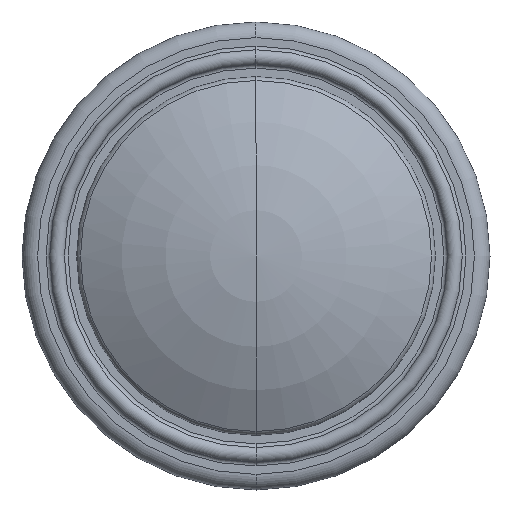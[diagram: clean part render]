
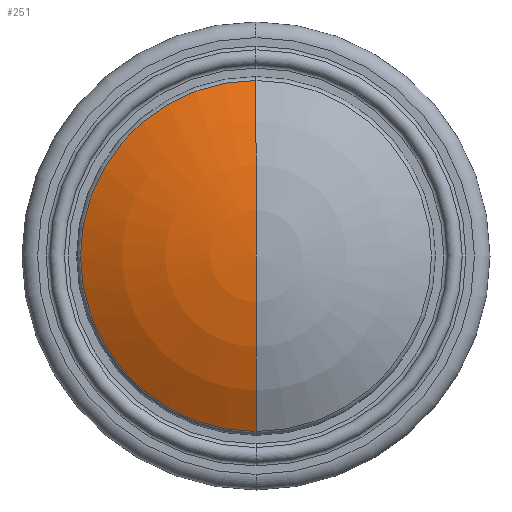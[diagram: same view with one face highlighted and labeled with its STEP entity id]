
A CAD part, front view. The second image highlights one B-rep face of the part: STEP entity #251.
In plain terms, the highlighted toroidal (fillet/blend) face has major radius 0.244 mm and minor radius 21.935 mm.
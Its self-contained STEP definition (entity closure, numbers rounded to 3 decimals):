
#207 = VERTEX_POINT( '', #563 );
#225 = VERTEX_POINT( '', #582 );
#251 = ADVANCED_FACE( '', ( #611 ), #612, .T. );
#301 = EDGE_CURVE( '', #207, #519, #666, .T. );
#427 = EDGE_CURVE( '', #225, #207, #806, .T. );
#493 = EDGE_CURVE( '', #225, #519, #882, .T. );
#519 = VERTEX_POINT( '', #909 );
#563 = CARTESIAN_POINT( '', ( 0., -23., 0. ) );
#582 = CARTESIAN_POINT( '', ( 0., -20.04, -11.251 ) );
#611 = FACE_OUTER_BOUND( '', #1004, .T. );
#612 = TOROIDAL_SURFACE( '', #1005, 0.244, 21.935 );
#666 = CIRCLE( '', #1066, 21.935 );
#806 = CIRCLE( '', #1245, 21.935 );
#882 = CIRCLE( '', #1345, 11.251 );
#909 = CARTESIAN_POINT( '', ( 0., -20.04, 11.251 ) );
#1004 = EDGE_LOOP( '', ( #1477, #1478, #1479 ) );
#1005 = AXIS2_PLACEMENT_3D( '', #1480, #1481, #1482 );
#1066 = AXIS2_PLACEMENT_3D( '', #1535, #1536, #1537 );
#1245 = AXIS2_PLACEMENT_3D( '', #1751, #1752, #1753 );
#1345 = AXIS2_PLACEMENT_3D( '', #1873, #1874, #1875 );
#1477 = ORIENTED_EDGE( '', *, *, #427, .T. );
#1478 = ORIENTED_EDGE( '', *, *, #301, .T. );
#1479 = ORIENTED_EDGE( '', *, *, #493, .F. );
#1480 = CARTESIAN_POINT( '', ( 0., -1.066, 0. ) );
#1481 = DIRECTION( '', ( 0., 1., 0. ) );
#1482 = DIRECTION( '', ( 0., 0., 1. ) );
#1535 = CARTESIAN_POINT( '', ( 0., -1.066, 0.244 ) );
#1536 = DIRECTION( '', ( -1., 0., 0. ) );
#1537 = DIRECTION( '', ( 0., 0., 1. ) );
#1751 = CARTESIAN_POINT( '', ( 0., -1.066, -0.244 ) );
#1752 = DIRECTION( '', ( -1., 0., 0. ) );
#1753 = DIRECTION( '', ( 0., 0., -1. ) );
#1873 = CARTESIAN_POINT( '', ( 0., -20.04, 0. ) );
#1874 = DIRECTION( '', ( 0., 1., 0. ) );
#1875 = DIRECTION( '', ( 1., 0., 0. ) );
